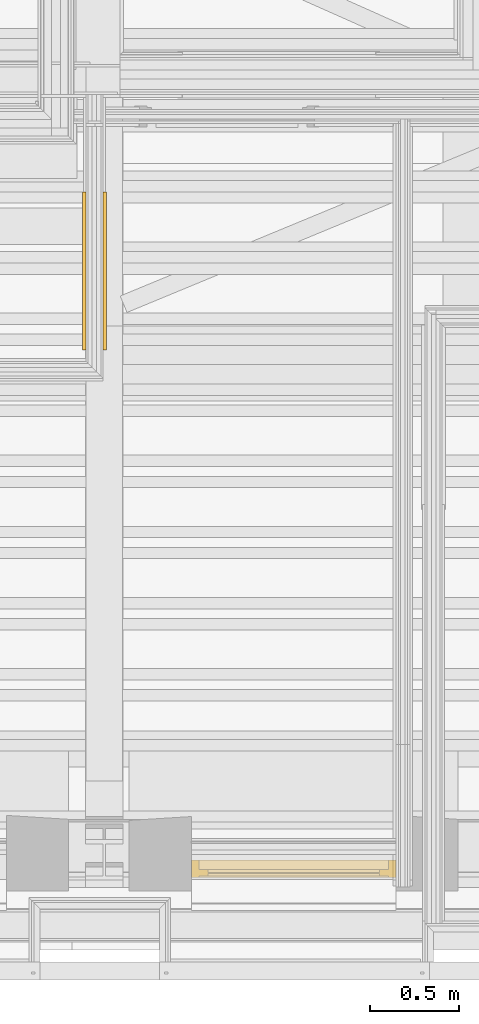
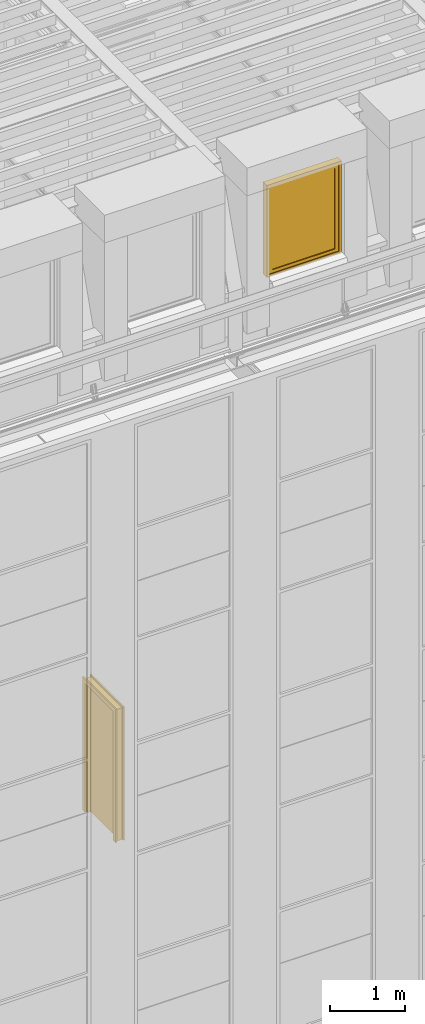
# One storey, part 138 of 183: 1 door, 1 window.
"""IFC2X3 building model written with IfcOpenShell, lengths in metres."""

from ifc_helpers import new_model, entity, si_unit, converted_unit, derived_unit, money_unit, direction, frame, origin_with_axes, place, context, subcontext, project, spatial, faceted_brep, material, type_object, element, save


model = new_model("IFC2X3")

# Units and contexts
model_context = context("Model", 3, precision=1e-05, world=origin_with_axes(), true_north=direction((0.0, 1.0)))
body_context = subcontext(model_context, "Body", "Model", "MODEL_VIEW", scale=1.0)
ifc_project = project(units=[si_unit("LENGTHUNIT", "METRE"), si_unit("AREAUNIT", "SQUARE_METRE"), si_unit("VOLUMEUNIT", "CUBIC_METRE"), si_unit("ABSORBEDDOSEUNIT", "GRAY"), si_unit("AMOUNTOFSUBSTANCEUNIT", "MOLE"), si_unit("DOSEEQUIVALENTUNIT", "SIEVERT"), si_unit("ELECTRICCAPACITANCEUNIT", "FARAD"), si_unit("ELECTRICCHARGEUNIT", "COULOMB"), si_unit("ELECTRICCONDUCTANCEUNIT", "SIEMENS"), si_unit("ELECTRICCURRENTUNIT", "AMPERE"), si_unit("ELECTRICRESISTANCEUNIT", "OHM"), si_unit("ELECTRICVOLTAGEUNIT", "VOLT"), si_unit("ENERGYUNIT", "JOULE"), si_unit("FORCEUNIT", "NEWTON"), si_unit("FREQUENCYUNIT", "HERTZ"), si_unit("ILLUMINANCEUNIT", "LUX"), si_unit("INDUCTANCEUNIT", "HENRY"), si_unit("LUMINOUSFLUXUNIT", "LUMEN"), si_unit("LUMINOUSINTENSITYUNIT", "CANDELA"), si_unit("MAGNETICFLUXDENSITYUNIT", "TESLA"), si_unit("MAGNETICFLUXUNIT", "WEBER"), si_unit("MASSUNIT", "GRAM"), converted_unit("PLANEANGLEUNIT", "degree", entity("IfcReal", 0.0174532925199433), si_unit("PLANEANGLEUNIT", "RADIAN"), dimensions=[0, 0, 0, 0, 0, 0, 0]), si_unit("POWERUNIT", "WATT"), si_unit("PRESSUREUNIT", "PASCAL"), si_unit("RADIOACTIVITYUNIT", "BECQUEREL"), si_unit("SOLIDANGLEUNIT", "STERADIAN"), si_unit("THERMODYNAMICTEMPERATUREUNIT", "KELVIN"), si_unit("TIMEUNIT", "SECOND"), derived_unit("ACCELERATIONUNIT", [(si_unit("LENGTHUNIT", "METRE"), 1), (si_unit("TIMEUNIT", "SECOND"), -2)]), derived_unit("ANGULARVELOCITYUNIT", [(converted_unit("PLANEANGLEUNIT", "degree", entity("IfcReal", 0.0174532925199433), si_unit("PLANEANGLEUNIT", "RADIAN"), dimensions=[0, 0, 0, 0, 0, 0, 0]), 1), (si_unit("TIMEUNIT", "SECOND"), -1)]), derived_unit("CURVATUREUNIT", [(converted_unit("PLANEANGLEUNIT", "degree", entity("IfcReal", 0.0174532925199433), si_unit("PLANEANGLEUNIT", "RADIAN"), dimensions=[0, 0, 0, 0, 0, 0, 0]), 1), (si_unit("LENGTHUNIT", "METRE"), -1)]), derived_unit("DYNAMICVISCOSITYUNIT", [(si_unit("PRESSUREUNIT", "PASCAL"), 1), (si_unit("TIMEUNIT", "SECOND"), 1)]), derived_unit("HEATFLUXDENSITYUNIT", [(si_unit("POWERUNIT", "WATT"), 1), (si_unit("LENGTHUNIT", "METRE"), -2)]), derived_unit("HEATINGVALUEUNIT", [(si_unit("ENERGYUNIT", "JOULE"), 1), (si_unit("MASSUNIT", "GRAM"), -1)]), derived_unit("INTEGERCOUNTRATEUNIT", [(si_unit("TIMEUNIT", "SECOND"), -1)]), derived_unit("IONCONCENTRATIONUNIT", [(si_unit("MASSUNIT", "GRAM"), 1), (si_unit("VOLUMEUNIT", "CUBIC_METRE"), -1)]), derived_unit("ISOTHERMALMOISTURECAPACITYUNIT", [(si_unit("VOLUMEUNIT", "CUBIC_METRE"), 1), (si_unit("MASSUNIT", "GRAM"), -1)]), derived_unit("KINEMATICVISCOSITYUNIT", [(si_unit("AREAUNIT", "SQUARE_METRE"), 1), (si_unit("TIMEUNIT", "SECOND"), -1)]), derived_unit("LINEARFORCEUNIT", [(si_unit("FORCEUNIT", "NEWTON"), 1), (si_unit("LENGTHUNIT", "METRE"), -1)]), derived_unit("LINEARMOMENTUNIT", [(si_unit("FORCEUNIT", "NEWTON"), 1), (si_unit("LENGTHUNIT", "METRE"), -1)]), derived_unit("LINEARSTIFFNESSUNIT", [(si_unit("FORCEUNIT", "NEWTON"), 1), (si_unit("LENGTHUNIT", "METRE"), -1)]), derived_unit("LINEARVELOCITYUNIT", [(si_unit("LENGTHUNIT", "METRE"), 1), (si_unit("TIMEUNIT", "SECOND"), -1)]), derived_unit("LUMINOUSINTENSITYDISTRIBUTIONUNIT", [(si_unit("LUMINOUSINTENSITYUNIT", "CANDELA"), 1), (si_unit("LUMINOUSFLUXUNIT", "LUMEN"), -1)]), derived_unit("MASSDENSITYUNIT", [(si_unit("MASSUNIT", "GRAM"), 1), (si_unit("VOLUMEUNIT", "CUBIC_METRE"), -1)]), derived_unit("MASSFLOWRATEUNIT", [(si_unit("MASSUNIT", "GRAM"), 1), (si_unit("TIMEUNIT", "SECOND"), -1)]), derived_unit("MASSPERLENGTHUNIT", [(si_unit("MASSUNIT", "GRAM"), 1), (si_unit("LENGTHUNIT", "METRE"), -1)]), derived_unit("MODULUSOFELASTICITYUNIT", [(si_unit("FORCEUNIT", "NEWTON"), 1), (si_unit("AREAUNIT", "SQUARE_METRE"), -1)]), derived_unit("MODULUSOFLINEARSUBGRADEREACTIONUNIT", [(si_unit("FORCEUNIT", "NEWTON"), 1), (si_unit("LENGTHUNIT", "METRE"), -2)]), derived_unit("MODULUSOFROTATIONALSUBGRADEREACTIONUNIT", [(si_unit("FORCEUNIT", "NEWTON"), 1), (si_unit("LENGTHUNIT", "METRE"), 1)]), derived_unit("MODULUSOFSUBGRADEREACTIONUNIT", [(si_unit("FORCEUNIT", "NEWTON"), 1), (si_unit("VOLUMEUNIT", "CUBIC_METRE"), -1)]), derived_unit("MOISTUREDIFFUSIVITYUNIT", [(si_unit("VOLUMEUNIT", "CUBIC_METRE"), 1), (si_unit("TIMEUNIT", "SECOND"), -1)]), derived_unit("MOLECULARWEIGHTUNIT", [(si_unit("MASSUNIT", "GRAM"), 1), (si_unit("AMOUNTOFSUBSTANCEUNIT", "MOLE"), -1)]), derived_unit("PLANARFORCEUNIT", [(si_unit("FORCEUNIT", "NEWTON"), 1), (si_unit("LENGTHUNIT", "METRE"), -2)]), derived_unit("ROTATIONALFREQUENCYUNIT", [(si_unit("TIMEUNIT", "SECOND"), -1)]), derived_unit("ROTATIONALMASSUNIT", [(si_unit("MASSUNIT", "GRAM"), 1), (si_unit("LENGTHUNIT", "METRE"), 2)]), derived_unit("ROTATIONALSTIFFNESSUNIT", [(si_unit("FORCEUNIT", "NEWTON"), 1), (si_unit("LENGTHUNIT", "METRE"), 1), (converted_unit("PLANEANGLEUNIT", "degree", entity("IfcReal", 0.0174532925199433), si_unit("PLANEANGLEUNIT", "RADIAN"), dimensions=[0, 0, 0, 0, 0, 0, 0]), -1)]), derived_unit("SECTIONAREAINTEGRALUNIT", [(si_unit("LENGTHUNIT", "METRE"), 5)]), derived_unit("SECTIONMODULUSUNIT", [(si_unit("LENGTHUNIT", "METRE"), 3)]), derived_unit("SHEARMODULUSUNIT", [(si_unit("FORCEUNIT", "NEWTON"), 1), (si_unit("AREAUNIT", "SQUARE_METRE"), -1)]), derived_unit("SOUNDPOWERUNIT", [(si_unit("ENERGYUNIT", "JOULE"), 1), (si_unit("TIMEUNIT", "SECOND"), -1)]), derived_unit("SPECIFICHEATCAPACITYUNIT", [(si_unit("FORCEUNIT", "NEWTON"), 1), (si_unit("MASSUNIT", "GRAM"), -1), (si_unit("THERMODYNAMICTEMPERATUREUNIT", "KELVIN"), -1)]), derived_unit("TEMPERATUREGRADIENTUNIT", [(si_unit("THERMODYNAMICTEMPERATUREUNIT", "KELVIN"), 1), (si_unit("LENGTHUNIT", "METRE"), -1)]), derived_unit("THERMALADMITTANCEUNIT", [(si_unit("POWERUNIT", "WATT"), 1), (si_unit("AREAUNIT", "SQUARE_METRE"), -1), (si_unit("THERMODYNAMICTEMPERATUREUNIT", "KELVIN"), -1)]), derived_unit("THERMALCONDUCTANCEUNIT", [(si_unit("POWERUNIT", "WATT"), 1), (si_unit("LENGTHUNIT", "METRE"), -1), (si_unit("THERMODYNAMICTEMPERATUREUNIT", "KELVIN"), -1)]), derived_unit("THERMALEXPANSIONCOEFFICIENTUNIT", [(si_unit("THERMODYNAMICTEMPERATUREUNIT", "KELVIN"), -1)]), derived_unit("THERMALRESISTANCEUNIT", [(si_unit("AREAUNIT", "SQUARE_METRE"), 1), (si_unit("POWERUNIT", "WATT"), -1)]), derived_unit("THERMALTRANSMITTANCEUNIT", [(si_unit("POWERUNIT", "WATT"), 1), (si_unit("AREAUNIT", "SQUARE_METRE"), -1), (si_unit("THERMODYNAMICTEMPERATUREUNIT", "KELVIN"), -1)]), derived_unit("TORQUEUNIT", [(si_unit("FORCEUNIT", "NEWTON"), 1), (si_unit("LENGTHUNIT", "METRE"), 1)]), derived_unit("VAPORPERMEABILITYUNIT", [(si_unit("MASSUNIT", "GRAM"), 1), (si_unit("TIMEUNIT", "SECOND"), -1)]), derived_unit("VOLUMETRICFLOWRATEUNIT", [(si_unit("VOLUMEUNIT", "CUBIC_METRE"), 1), (si_unit("TIMEUNIT", "SECOND"), -1)]), derived_unit("WARPINGCONSTANTUNIT", [(si_unit("LENGTHUNIT", "METRE"), 6)]), derived_unit("WARPINGMOMENTUNIT", [(si_unit("FORCEUNIT", "NEWTON"), 1), (si_unit("LENGTHUNIT", "METRE"), 2)]), money_unit("GBP")], contexts=[model_context])

# Site, building, storey, space
site_placement = place(None, origin_with_axes())
site = spatial("IfcSite", under=ifc_project, at=site_placement, Name="Site", CompositionType="ELEMENT")
building_placement = place(site_placement, origin_with_axes())
building = spatial("IfcBuilding", under=site, at=building_placement, Name="Building01", CompositionType="ELEMENT")
storey_placement = place(building_placement, frame((0.0, 0.0, 5.15), z_axis=(0.0, 0.0, 1.0), x_axis=(1.0, 0.0, 0.0)))
storey = spatial("IfcBuildingStorey", under=building, at=storey_placement, Name="1F", CompositionType="ELEMENT", Elevation=5.15)
space_1_placement = place(storey_placement, frame((15.77, 4.717, 9.81), z_axis=(0.0, 0.0, 1.0), x_axis=(0.0, -1.0, 0.0)))
space_1 = spatial("IfcSpace", under=storey, at=space_1_placement, Name="1", CompositionType="ELEMENT", InteriorOrExteriorSpace="NOTDEFINED")

# Window
ifc_material_1 = material(Name="A_BSUK_Windows")
window_style = type_object("IfcWindowStyle", Name="A-Awning", ConstructionType="NOTDEFINED", OperationType="USERDEFINED", ParameterTakesPrecedence=False, Sizeable=False)
window_placement = place(storey_placement, frame((19.550024, 0.549939, 10.78), z_axis=(0.0, 0.0, 1.0), x_axis=(1.0, 0.0, 0.0)))
element("IfcWindow", 1, at=window_placement, inside=space_1, type_object=window_style, material=ifc_material_1, Name="4.08", ObjectType="A-Awning", OverallHeight=1.50000000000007, OverallWidth=1.15000000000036, context=body_context, shape_type="Brep", body=[
    faceted_brep([(-1.108, 0.0254, 0.042), (-0.042, 0.0254, 0.042), (-0.042, 0.1254, 0.042), (-1.108, 0.1254, 0.042), (-1.108, 0.0254, 1.458), (-1.108, 0.1254, 1.458), (-0.042, 0.0254, 1.458), (-0.042, 0.1254, 1.458), (0.0, 0.0254, 0.0), (0.0, 0.0254, 1.5), (-1.15, 0.0254, 1.5), (-1.15, 0.0254, 0.0), (0.0, 0.1254, 1.5), (-1.15, 0.1254, 1.5), (-1.15, 0.1254, 0.0), (0.0, 0.1254, 0.0)], [[[0, 1, 2, 3]], [[4, 0, 3, 5]], [[6, 4, 5, 7]], [[8, 9, 10, 11], [4, 6, 1, 0]], [[1, 6, 7, 2]], [[12, 13, 10, 9]], [[14, 15, 8, 11]], [[13, 14, 11, 10]], [[13, 12, 15, 14], [2, 7, 5, 3]], [[15, 12, 9, 8]]]),
    faceted_brep([(-1.0572, 0.0354, 0.0928), (-0.0928, 0.0354, 0.0928), (-0.0928, 0.0704, 0.0928), (-1.0572, 0.0704, 0.0928), (-1.0572, 0.0354, 1.4072), (-1.0572, 0.0704, 1.4072), (-0.0928, 0.0354, 1.4072), (-0.0928, 0.0704, 1.4072), (-1.108, 0.0704, 1.458), (-0.042, 0.0704, 1.458), (-0.042, 0.0704, 0.042), (-1.108, 0.0704, 0.042), (-1.108, 0.0354, 1.458), (-0.042, 0.0354, 1.458), (-0.042, 0.0354, 0.042), (-1.108, 0.0354, 0.042)], [[[0, 1, 2, 3]], [[4, 0, 3, 5]], [[6, 4, 5, 7]], [[8, 9, 10, 11], [2, 7, 5, 3]], [[9, 8, 12, 13]], [[10, 9, 13, 14]], [[11, 10, 14, 15]], [[8, 11, 15, 12]], [[14, 13, 12, 15], [4, 6, 1, 0]], [[1, 6, 7, 2]]]),
    faceted_brep([(-0.0928, 0.049725, 0.0928), (-0.0928, 0.056075, 0.0928), (-0.0928, 0.056075, 1.4072), (-0.0928, 0.049725, 1.4072), (-1.0572, 0.049725, 1.4072), (-1.0572, 0.056075, 1.4072), (-1.0572, 0.056075, 0.0928), (-1.0572, 0.049725, 0.0928)], [[[0, 1, 2, 3]], [[4, 5, 6, 7]], [[3, 2, 5, 4]], [[3, 4, 7, 0]], [[7, 6, 1, 0]], [[1, 6, 5, 2]]]),
])

# Space
space_2_placement = place(storey_placement, frame((14.85, 4.98, 0.017975), z_axis=(0.0, 0.0, 1.0), x_axis=(0.0, -1.0, 0.0)))
space_2 = spatial("IfcSpace", under=storey, at=space_2_placement, Name="04", CompositionType="ELEMENT", InteriorOrExteriorSpace="NOTDEFINED")

# Door
ifc_material_2 = material(Name="A_BSUK_Doors")
door_style = type_object("IfcDoorStyle", Name="A-Doors-SingleFlush", ConstructionType="USERDEFINED", OperationType="SINGLE_SWING_RIGHT", ParameterTakesPrecedence=False, Sizeable=False)
door_placement = place(storey_placement, frame((17.9025, 4.363781, 0.0), z_axis=(0.0, 0.0, 1.0), x_axis=(0.0, -1.0, 0.0)))
element("IfcDoor", 2, at=door_placement, inside=space_2, type_object=door_style, material=ifc_material_2, Name="1.13", ObjectType="A-Doors-SingleFlush", OverallHeight=2.16900000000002, OverallWidth=0.88800000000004, context=body_context, shape_type="Brep", body=[
    faceted_brep([(0.75, -0.114, 0.0), (0.819, -0.114, 0.0), (0.819, -0.114, 2.169), (-0.069, -0.114, 2.169), (-0.069, -0.114, 0.0), (0.0, -0.114, 0.0), (0.0, -0.114, 2.1), (0.75, -0.114, 2.1), (-0.069, -0.095, 0.0), (-0.069, -0.095, 2.169), (0.819, -0.095, 2.169), (0.819, -0.095, 0.0), (0.75, 0.019, 0.0), (0.819, 0.019, 0.0), (0.819, 0.0, 0.0), (0.792, 0.0, 0.0), (0.792, -0.095, 0.0), (0.75, 0.019, 2.1), (0.0, 0.019, 2.1), (0.0, 0.019, 0.0), (-0.069, 0.019, 0.0), (-0.069, 0.019, 2.169), (0.819, 0.019, 2.169), (0.819, 0.0, 2.169), (0.792, -0.095, 2.142), (0.792, 0.0, 2.142), (-0.042, -0.095, 2.142), (-0.042, 0.0, 2.142), (-0.042, -0.095, 0.0), (-0.042, 0.0, 0.0), (-0.069, 0.0, 2.169), (-0.069, 0.0, 0.0)], [[[0, 1, 2, 3, 4, 5, 6, 7]], [[8, 4, 3, 9]], [[10, 2, 1, 11]], [[9, 3, 2, 10]], [[12, 13, 14, 15, 16, 11, 1, 0]], [[7, 17, 12, 0]], [[6, 18, 17, 7]], [[18, 19, 20, 21, 22, 13, 12, 17]], [[5, 19, 18, 6]], [[13, 22, 23, 14]], [[24, 16, 15, 25]], [[26, 24, 25, 27]], [[11, 16, 24, 26, 28, 8, 9, 10]], [[27, 29, 28, 26]], [[25, 15, 14, 23, 30, 31, 29, 27]], [[5, 4, 8, 28, 29, 31, 20, 19]], [[30, 21, 20, 31]], [[23, 22, 21, 30]]]),
    faceted_brep([(0.0, -0.09, 2.1), (0.0, -0.04, 2.1), (0.0, -0.04, 0.0), (0.0, -0.09, 0.0), (0.725, -0.09, 0.0), (0.75, -0.09, 0.0), (0.75, -0.09, 2.1), (0.025, -0.09, 0.0), (0.025, -0.09, 2.075), (0.725, -0.09, 2.075), (0.725, -0.04, 0.0), (0.75, -0.04, 0.0), (0.75, -0.04, 2.1), (0.025, -0.04, 2.075), (0.025, -0.04, 0.0), (0.725, -0.04, 2.075)], [[[0, 1, 2, 3]], [[4, 5, 6, 0, 3, 7, 8, 9]], [[10, 11, 5, 4]], [[6, 12, 1, 0]], [[5, 11, 12, 6]], [[13, 14, 2, 1, 12, 11, 10, 15]], [[7, 14, 13, 8]], [[7, 3, 2, 14]], [[9, 15, 10, 4]], [[8, 13, 15, 9]]]),
    faceted_brep([(0.75, -0.04, 0.0), (0.75, 0.0, 0.0), (0.75, 0.0, 2.1), (0.75, -0.04, 2.1), (0.0, -0.04, 2.1), (0.0, 0.0, 2.1), (0.0, 0.0, 0.0), (0.0, -0.04, 0.0)], [[[0, 1, 2, 3]], [[4, 5, 6, 7]], [[7, 6, 1, 0]], [[3, 4, 7, 0]], [[3, 2, 5, 4]], [[1, 6, 5, 2]]]),
])

save(model, "model.ifc")
